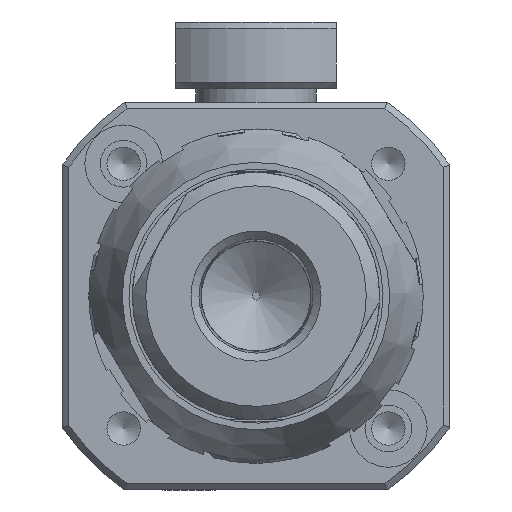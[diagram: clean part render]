
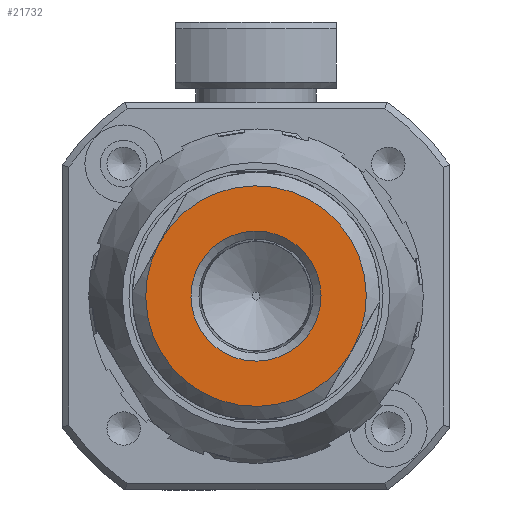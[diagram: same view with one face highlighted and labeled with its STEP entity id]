
A CAD part, front view. The second image highlights one B-rep face of the part: STEP entity #21732.
In plain terms, the highlighted planar face has unit normal (0, -1, 0).
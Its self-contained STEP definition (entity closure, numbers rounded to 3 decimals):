
#2558 = CIRCLE ( 'NONE', #32134, 8.25 ) ;
#3040 = ORIENTED_EDGE ( 'NONE', *, *, #49182, .T. ) ;
#3987 = CIRCLE ( 'NONE', #38822, 4.864 ) ;
#4138 = FACE_BOUND ( 'NONE', #31722, .T. ) ;
#5648 = DIRECTION ( 'NONE',  ( -0.873, 0., 0.487 ) ) ;
#10415 = EDGE_CURVE ( 'NONE', #17916, #17916, #3987, .T. ) ;
#11800 = PLANE ( 'NONE',  #24530 ) ;
#12068 = DIRECTION ( 'NONE',  ( 0., 1., 0. ) ) ;
#12163 = VERTEX_POINT ( 'NONE', #38749 ) ;
#13847 = CIRCLE ( 'NONE', #44313, 8.25 ) ;
#15801 = DIRECTION ( 'NONE',  ( 0., -1., 0. ) ) ;
#16943 = EDGE_LOOP ( 'NONE', ( #3040, #30162 ) ) ;
#17916 = VERTEX_POINT ( 'NONE', #38881 ) ;
#21732 = ADVANCED_FACE ( 'NONE', ( #4138, #37113 ), #11800, .F. ) ;
#23795 = DIRECTION ( 'NONE',  ( 0.873, 0., -0.487 ) ) ;
#23973 = CARTESIAN_POINT ( 'NONE',  ( -7.444, -85.732, 132.7 ) ) ;
#24530 = AXIS2_PLACEMENT_3D ( 'NONE', #28143, #12068, #23795 ) ;
#25515 = ORIENTED_EDGE ( 'NONE', *, *, #10415, .F. ) ;
#28143 = CARTESIAN_POINT ( 'NONE',  ( -7.444, -85.732, 132.7 ) ) ;
#28597 = DIRECTION ( 'NONE',  ( -0.873, 0., 0.487 ) ) ;
#29014 = DIRECTION ( 'NONE',  ( -0.873, 0., 0.487 ) ) ;
#30162 = ORIENTED_EDGE ( 'NONE', *, *, #51142, .T. ) ;
#31722 = EDGE_LOOP ( 'NONE', ( #25515 ) ) ;
#32134 = AXIS2_PLACEMENT_3D ( 'NONE', #23973, #15801, #28597 ) ;
#33114 = CARTESIAN_POINT ( 'NONE',  ( -7.444, -85.732, 132.7 ) ) ;
#34268 = DIRECTION ( 'NONE',  ( 0., -1., 0. ) ) ;
#34729 = CARTESIAN_POINT ( 'NONE',  ( -0.239, -85.732, 128.681 ) ) ;
#37113 = FACE_OUTER_BOUND ( 'NONE', #16943, .T. ) ;
#38749 = CARTESIAN_POINT ( 'NONE',  ( -14.65, -85.732, 136.719 ) ) ;
#38822 = AXIS2_PLACEMENT_3D ( 'NONE', #33114, #49722, #29014 ) ;
#38881 = CARTESIAN_POINT ( 'NONE',  ( -11.692, -85.732, 135.069 ) ) ;
#44313 = AXIS2_PLACEMENT_3D ( 'NONE', #47066, #34268, #5648 ) ;
#47066 = CARTESIAN_POINT ( 'NONE',  ( -7.444, -85.732, 132.7 ) ) ;
#49182 = EDGE_CURVE ( 'NONE', #12163, #52817, #13847, .T. ) ;
#49722 = DIRECTION ( 'NONE',  ( 0., -1., 0. ) ) ;
#51142 = EDGE_CURVE ( 'NONE', #52817, #12163, #2558, .T. ) ;
#52817 = VERTEX_POINT ( 'NONE', #34729 ) ;
